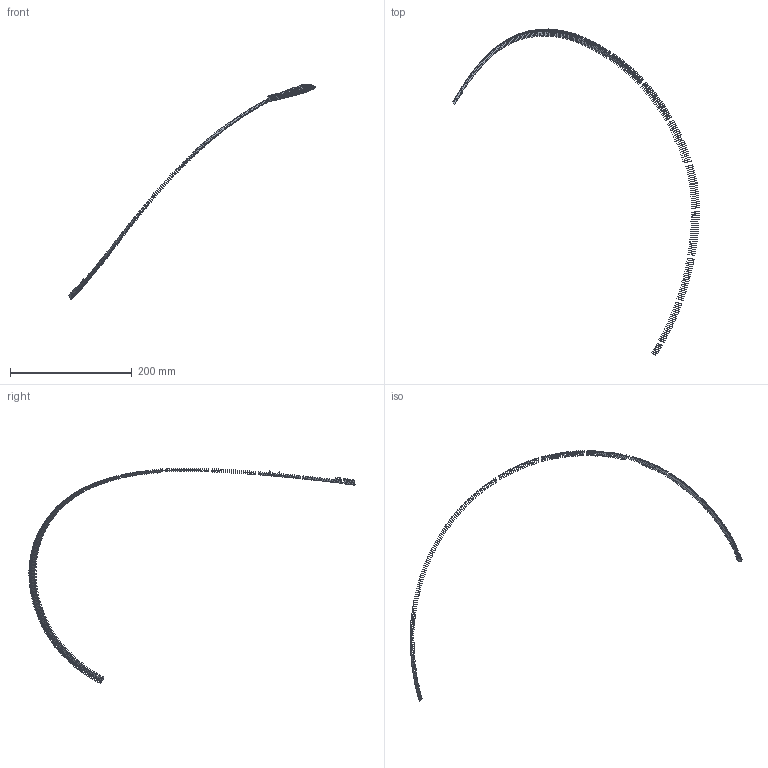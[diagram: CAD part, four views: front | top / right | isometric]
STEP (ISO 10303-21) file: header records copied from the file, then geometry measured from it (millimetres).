
FILE_DESCRIPTION(('FreeCAD Model'),'2;1');
FILE_NAME('Open CASCADE Shape Model','2022-05-22T07:50:31',('FreeCAD'),( 'FreeCAD'),'Open CASCADE STEP processor 7.5','FreeCAD','Unknown');
FILE_SCHEMA(('AUTOMOTIVE_DESIGN { 1 0 10303 214 1 1 1 1 }'));
Length unit declared in the file: millimetre
Products named in the file (299): Open CASCADE STEP translator 7.5 10; Open CASCADE STEP translator 7.5 10.1; Open CASCADE STEP translator 7.5 10.2; Open CASCADE STEP translator 7.5 10.3; Open CASCADE STEP translator 7.5 10.4; Open CASCADE STEP translator 7.5 10.5; Open CASCADE STEP translator 7.5 10.6; Open CASCADE STEP translator 7.5 10.7; Open CASCADE STEP translator 7.5 10.8; Open CASCADE STEP translator 7.5 10.9; Open CASCADE STEP translator 7.5 10.10; Open CASCADE STEP translator 7.5 10.11; Open CASCADE STEP translator 7.5 10.12; Open CASCADE STEP translator 7.5 10.13; Open CASCADE STEP translator 7.5 10.14; Open CASCADE STEP translator 7.5 10.15; Open CASCADE STEP translator 7.5 10.16; Open CASCADE STEP translator 7.5 10.17; Open CASCADE STEP translator 7.5 10.18; Open CASCADE STEP translator 7.5 10.19; Open CASCADE STEP translator 7.5 10.20; Open CASCADE STEP translator 7.5 10.21; Open CASCADE STEP translator 7.5 10.22; Open CASCADE STEP translator 7.5 10.23; Open CASCADE STEP translator 7.5 10.24; Open CASCADE STEP translator 7.5 10.25; Open CASCADE STEP translator 7.5 10.26; Open CASCADE STEP translator 7.5 10.27; Open CASCADE STEP translator 7.5 10.28; Open CASCADE STEP translator 7.5 10.29; Open CASCADE STEP translator 7.5 10.30; Open CASCADE STEP translator 7.5 10.31; Open CASCADE STEP translator 7.5 10.32; Open CASCADE STEP translator 7.5 10.33; Open CASCADE STEP translator 7.5 10.34; Open CASCADE STEP translator 7.5 10.35; Open CASCADE STEP translator 7.5 10.36; Open CASCADE STEP translator 7.5 10.37; Open CASCADE STEP translator 7.5 10.38; Open CASCADE STEP translator 7.5 10.39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
Assembly tree (298 placements, depth 2):
  Open CASCADE STEP translator 7.5 10
    Open CASCADE STEP translator 7.5 10.1
    Open CASCADE STEP translator 7.5 10.2
    Open CASCADE STEP translator 7.5 10.3
    Open CASCADE STEP translator 7.5 10.4
    Open CASCADE STEP translator 7.5 10.5
    Open CASCADE STEP translator 7.5 10.6
    Open CASCADE STEP translator 7.5 10.7
    Open CASCADE STEP translator 7.5 10.8
    Open CASCADE STEP translator 7.5 10.9
    Open CASCADE STEP translator 7.5 10.10
    Open CASCADE STEP translator 7.5 10.11
    Open CASCADE STEP translator 7.5 10.12
    Open CASCADE STEP translator 7.5 10.13
    Open CASCADE STEP translator 7.5 10.14
    Open CASCADE STEP translator 7.5 10.15
    Open CASCADE STEP translator 7.5 10.16
    Open CASCADE STEP translator 7.5 10.17
    Open CASCADE STEP translator 7.5 10.18
    Open CASCADE STEP translator 7.5 10.19
    Open CASCADE STEP translator 7.5 10.20
    Open CASCADE STEP translator 7.5 10.21
    Open CASCADE STEP translator 7.5 10.22
    Open CASCADE STEP translator 7.5 10.23
    Open CASCADE STEP translator 7.5 10.24
    Open CASCADE STEP translator 7.5 10.25
    Open CASCADE STEP translator 7.5 10.26
    Open CASCADE STEP translator 7.5 10.27
    Open CASCADE STEP translator 7.5 10.28
    Open CASCADE STEP translator 7.5 10.29
    Open CASCADE STEP translator 7.5 10.30
    Open CASCADE STEP translator 7.5 10.31
    Open CASCADE STEP translator 7.5 10.32
    Open CASCADE STEP translator 7.5 10.33
    Open CASCADE STEP translator 7.5 10.34
    Open CASCADE STEP translator 7.5 10.35
    Open CASCADE STEP translator 7.5 10.36
    Open CASCADE STEP translator 7.5 10.37
    Open CASCADE STEP translator 7.5 10.38
    Open CASCADE STEP translator 7.5 10.39
    Open CASCADE STEP translator 7.5 10.40
    Open CASCADE STEP translator 7.5 10.41
    Open CASCADE STEP translator 7.5 10.42
    Open CASCADE STEP translator 7.5 10.43
    Open CASCADE STEP translator 7.5 10.44
    Open CASCADE STEP translator 7.5 10.45
    Open CASCADE STEP translator 7.5 10.46
    Open CASCADE STEP translator 7.5 10.47
    Open CASCADE STEP translator 7.5 10.48
    Open CASCADE STEP translator 7.5 10.49
    Open CASCADE STEP translator 7.5 10.50
    Open CASCADE STEP translator 7.5 10.51
    Open CASCADE STEP translator 7.5 10.52
    Open CASCADE STEP translator 7.5 10.53
    Open CASCADE STEP translator 7.5 10.54
    Open CASCADE STEP translator 7.5 10.55
    Open CASCADE STEP translator 7.5 10.56
    Open CASCADE STEP translator 7.5 10.57
    Open CASCADE STEP translator 7.5 10.58
    Open CASCADE STEP translator 7.5 10.59
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Bounding box: 404.42 x 534.8 x 353.73 mm (x, y, z)
Surface area: 9779.7 mm2 (no closed solid volume)
Topology: 0 solids, 298 shells, 298 faces, 12154 edges, 12154 vertices
Faces by surface type: bspline 298
Entity records: 166362 total; most frequent: CARTESIAN_POINT 62261, B_SPLINE_CURVE_WITH_KNOTS 24308, ORIENTED_EDGE 12154, EDGE_CURVE 12154, VERTEX_POINT 12154, SURFACE_CURVE 12154, PCURVE 12154, DEFINITIONAL_REPRESENTATION 12154
